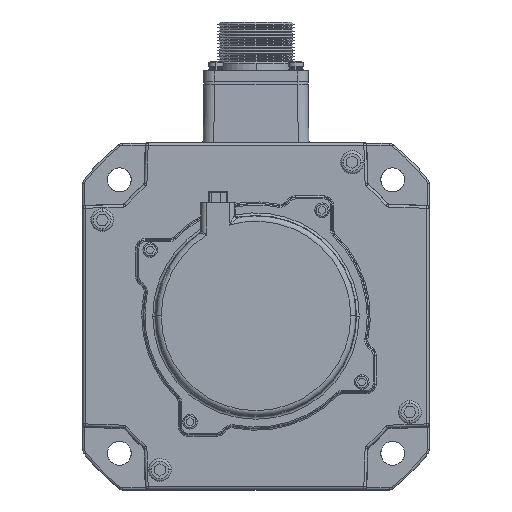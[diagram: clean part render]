
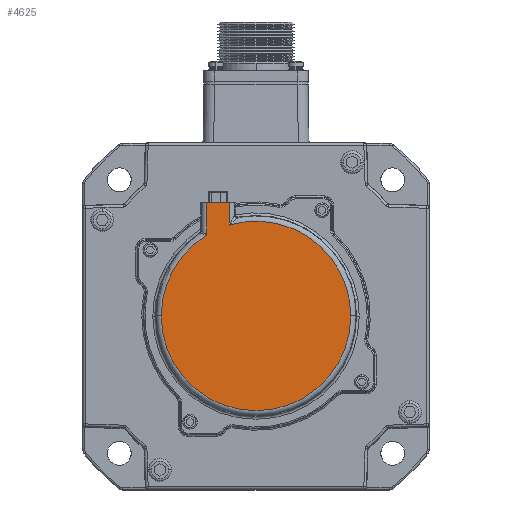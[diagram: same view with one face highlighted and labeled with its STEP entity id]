
A CAD part, top view. The second image highlights one B-rep face of the part: STEP entity #4625.
In plain terms, the highlighted planar face has unit normal (0, 0, 1).
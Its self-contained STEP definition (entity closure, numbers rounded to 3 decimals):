
#3657 = CARTESIAN_POINT ( 'NONE',  ( -8.872, -56.273, -26.037 ) ) ;
#3659 = DIRECTION ( 'NONE',  ( 0., 0., 1. ) ) ;
#4625 = ADVANCED_FACE ( 'NONE', ( #76107 ), #55523, .T. ) ;
#9433 = EDGE_CURVE ( 'NONE', #82604, #100087, #100885, .T. ) ;
#11755 = VERTEX_POINT ( 'NONE', #96475 ) ;
#13385 = DIRECTION ( 'NONE',  ( 1., 0., 0. ) ) ;
#14289 = CARTESIAN_POINT ( 'NONE',  ( -18.844, -13.773, -26.037 ) ) ;
#15850 = CARTESIAN_POINT ( 'NONE',  ( -8.872, -56.273, -26.037 ) ) ;
#16508 = DIRECTION ( 'NONE',  ( 0., -1., 0. ) ) ;
#22890 = AXIS2_PLACEMENT_3D ( 'NONE', #61868, #3659, #71625 ) ;
#24096 = ORIENTED_EDGE ( 'NONE', *, *, #48164, .T. ) ;
#25670 = DIRECTION ( 'NONE',  ( 1., 0., 0. ) ) ;
#25932 = CIRCLE ( 'NONE', #90772, 35.528 ) ;
#26666 = CIRCLE ( 'NONE', #41543, 35.528 ) ;
#31771 = LINE ( 'NONE', #84552, #54597 ) ;
#34405 = DIRECTION ( 'NONE',  ( 0., 1., 0. ) ) ;
#41543 = AXIS2_PLACEMENT_3D ( 'NONE', #3657, #71624, #13385 ) ;
#41560 = CARTESIAN_POINT ( 'NONE',  ( -18.844, -22.174, -26.037 ) ) ;
#43671 = CARTESIAN_POINT ( 'NONE',  ( -44.4, -56.273, -26.037 ) ) ;
#43930 = AXIS2_PLACEMENT_3D ( 'NONE', #55103, #54849, #54516 ) ;
#48164 = EDGE_CURVE ( 'NONE', #11755, #59706, #31771, .T. ) ;
#49149 = VECTOR ( 'NONE', #34405, 1000. ) ;
#54516 = DIRECTION ( 'NONE',  ( 1., 0., 0. ) ) ;
#54597 = VECTOR ( 'NONE', #16508, 1000. ) ;
#54849 = DIRECTION ( 'NONE',  ( 0., 0., 1. ) ) ;
#55103 = CARTESIAN_POINT ( 'NONE',  ( -8.872, -56.273, -26.037 ) ) ;
#55523 = PLANE ( 'NONE',  #43930 ) ;
#55624 = CARTESIAN_POINT ( 'NONE',  ( 26.656, -56.273, -26.037 ) ) ;
#59706 = VERTEX_POINT ( 'NONE', #72596 ) ;
#61324 = EDGE_CURVE ( 'NONE', #59706, #106187, #26666, .T. ) ;
#61868 = CARTESIAN_POINT ( 'NONE',  ( -8.872, -56.273, -26.037 ) ) ;
#64655 = EDGE_CURVE ( 'NONE', #106187, #85224, #25932, .T. ) ;
#66926 = ORIENTED_EDGE ( 'NONE', *, *, #64655, .T. ) ;
#71624 = DIRECTION ( 'NONE',  ( 0., 0., 1. ) ) ;
#71625 = DIRECTION ( 'NONE',  ( 1., 0., 0. ) ) ;
#72596 = CARTESIAN_POINT ( 'NONE',  ( -27.4, -25.959, -26.037 ) ) ;
#75491 = ORIENTED_EDGE ( 'NONE', *, *, #9433, .T. ) ;
#76107 = FACE_OUTER_BOUND ( 'NONE', #78833, .T. ) ;
#78833 = EDGE_LOOP ( 'NONE', ( #103147, #24096, #91185, #66926, #125616, #75491 ) ) ;
#82604 = VERTEX_POINT ( 'NONE', #41560 ) ;
#82794 = VECTOR ( 'NONE', #99602, 1000. ) ;
#83881 = DIRECTION ( 'NONE',  ( 0., 0., 1. ) ) ;
#84552 = CARTESIAN_POINT ( 'NONE',  ( -27.4, -24.873, -26.037 ) ) ;
#85224 = VERTEX_POINT ( 'NONE', #55624 ) ;
#90772 = AXIS2_PLACEMENT_3D ( 'NONE', #15850, #83881, #25670 ) ;
#91185 = ORIENTED_EDGE ( 'NONE', *, *, #61324, .T. ) ;
#96475 = CARTESIAN_POINT ( 'NONE',  ( -27.4, -13.773, -26.037 ) ) ;
#99602 = DIRECTION ( 'NONE',  ( 1., 0., 0. ) ) ;
#100087 = VERTEX_POINT ( 'NONE', #14289 ) ;
#100885 = LINE ( 'NONE', #121977, #49149 ) ;
#103147 = ORIENTED_EDGE ( 'NONE', *, *, #123393, .F. ) ;
#106187 = VERTEX_POINT ( 'NONE', #43671 ) ;
#107338 = EDGE_CURVE ( 'NONE', #85224, #82604, #116128, .T. ) ;
#111722 = LINE ( 'NONE', #119127, #82794 ) ;
#116128 = CIRCLE ( 'NONE', #22890, 35.528 ) ;
#119127 = CARTESIAN_POINT ( 'NONE',  ( -16.872, -13.773, -26.037 ) ) ;
#121977 = CARTESIAN_POINT ( 'NONE',  ( -18.844, -13.773, -26.037 ) ) ;
#123393 = EDGE_CURVE ( 'NONE', #11755, #100087, #111722, .T. ) ;
#125616 = ORIENTED_EDGE ( 'NONE', *, *, #107338, .T. ) ;
